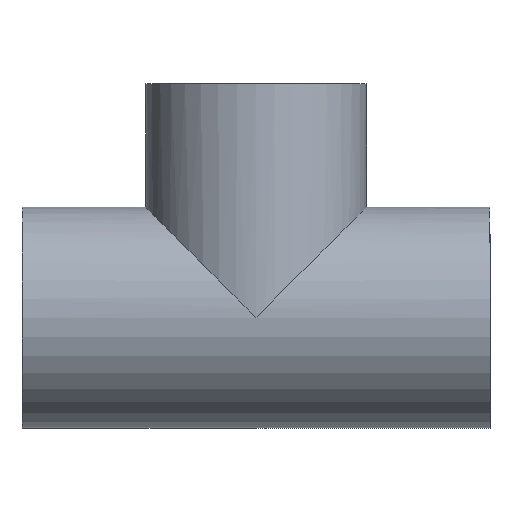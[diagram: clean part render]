
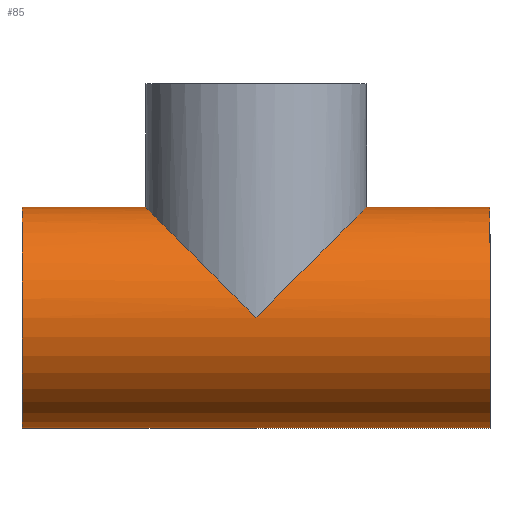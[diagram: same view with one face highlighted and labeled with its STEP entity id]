
A CAD part, front view. The second image highlights one B-rep face of the part: STEP entity #85.
In plain terms, the highlighted cylindrical face has radius 42.5 mm (diameter 85 mm), a full revolution.
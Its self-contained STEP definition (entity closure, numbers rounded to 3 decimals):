
#21 = EDGE_CURVE('',#22,#22,#24,.T.);
#22 = VERTEX_POINT('',#23);
#23 = CARTESIAN_POINT('',(-90.,0.,-42.5));
#24 = SURFACE_CURVE('',#25,(#30,#42),.PCURVE_S1.);
#25 = CIRCLE('',#26,42.5);
#26 = AXIS2_PLACEMENT_3D('',#27,#28,#29);
#27 = CARTESIAN_POINT('',(-90.,0.,0.));
#28 = DIRECTION('',(1.,-0.,0.));
#29 = DIRECTION('',(0.,0.,-1.));
#30 = PCURVE('',#31,#36);
#31 = PLANE('',#32);
#32 = AXIS2_PLACEMENT_3D('',#33,#34,#35);
#33 = CARTESIAN_POINT('',(-90.,0.,0.));
#34 = DIRECTION('',(1.,0.,0.));
#35 = DIRECTION('',(0.,0.,-1.));
#36 = DEFINITIONAL_REPRESENTATION('',(#37),#41);
#37 = CIRCLE('',#38,42.5);
#38 = AXIS2_PLACEMENT_2D('',#39,#40);
#39 = CARTESIAN_POINT('',(0.,0.));
#40 = DIRECTION('',(1.,0.));
#41 = ( GEOMETRIC_REPRESENTATION_CONTEXT(2) 
PARAMETRIC_REPRESENTATION_CONTEXT() REPRESENTATION_CONTEXT('2D SPACE',''
  ) );
#42 = PCURVE('',#43,#48);
#43 = CYLINDRICAL_SURFACE('',#44,42.5);
#44 = AXIS2_PLACEMENT_3D('',#45,#46,#47);
#45 = CARTESIAN_POINT('',(-90.,0.,0.));
#46 = DIRECTION('',(1.,0.,0.));
#47 = DIRECTION('',(0.,0.,-1.));
#48 = DEFINITIONAL_REPRESENTATION('',(#49),#53);
#49 = LINE('',#50,#51);
#50 = CARTESIAN_POINT('',(0.,0.));
#51 = VECTOR('',#52,1.);
#52 = DIRECTION('',(1.,0.));
#53 = ( GEOMETRIC_REPRESENTATION_CONTEXT(2) 
PARAMETRIC_REPRESENTATION_CONTEXT() REPRESENTATION_CONTEXT('2D SPACE',''
  ) );
#85 = ADVANCED_FACE('',(#86,#140),#43,.T.);
#86 = FACE_BOUND('',#87,.T.);
#87 = EDGE_LOOP('',(#88,#111,#138,#139));
#88 = ORIENTED_EDGE('',*,*,#89,.T.);
#89 = EDGE_CURVE('',#22,#90,#92,.T.);
#90 = VERTEX_POINT('',#91);
#91 = CARTESIAN_POINT('',(90.,0.,-42.5));
#92 = SEAM_CURVE('',#93,(#97,#104),.PCURVE_S1.);
#93 = LINE('',#94,#95);
#94 = CARTESIAN_POINT('',(-90.,0.,-42.5));
#95 = VECTOR('',#96,1.);
#96 = DIRECTION('',(1.,0.,0.));
#97 = PCURVE('',#43,#98);
#98 = DEFINITIONAL_REPRESENTATION('',(#99),#103);
#99 = LINE('',#100,#101);
#100 = CARTESIAN_POINT('',(6.283,-0.));
#101 = VECTOR('',#102,1.);
#102 = DIRECTION('',(0.,1.));
#103 = ( GEOMETRIC_REPRESENTATION_CONTEXT(2) 
PARAMETRIC_REPRESENTATION_CONTEXT() REPRESENTATION_CONTEXT('2D SPACE',''
  ) );
#104 = PCURVE('',#43,#105);
#105 = DEFINITIONAL_REPRESENTATION('',(#106),#110);
#106 = LINE('',#107,#108);
#107 = CARTESIAN_POINT('',(0.,-0.));
#108 = VECTOR('',#109,1.);
#109 = DIRECTION('',(0.,1.));
#110 = ( GEOMETRIC_REPRESENTATION_CONTEXT(2) 
PARAMETRIC_REPRESENTATION_CONTEXT() REPRESENTATION_CONTEXT('2D SPACE',''
  ) );
#111 = ORIENTED_EDGE('',*,*,#112,.F.);
#112 = EDGE_CURVE('',#90,#90,#113,.T.);
#113 = SURFACE_CURVE('',#114,(#119,#126),.PCURVE_S1.);
#114 = CIRCLE('',#115,42.5);
#115 = AXIS2_PLACEMENT_3D('',#116,#117,#118);
#116 = CARTESIAN_POINT('',(90.,0.,0.));
#117 = DIRECTION('',(1.,-0.,0.));
#118 = DIRECTION('',(0.,0.,-1.));
#119 = PCURVE('',#43,#120);
#120 = DEFINITIONAL_REPRESENTATION('',(#121),#125);
#121 = LINE('',#122,#123);
#122 = CARTESIAN_POINT('',(0.,180.));
#123 = VECTOR('',#124,1.);
#124 = DIRECTION('',(1.,0.));
#125 = ( GEOMETRIC_REPRESENTATION_CONTEXT(2) 
PARAMETRIC_REPRESENTATION_CONTEXT() REPRESENTATION_CONTEXT('2D SPACE',''
  ) );
#126 = PCURVE('',#127,#132);
#127 = PLANE('',#128);
#128 = AXIS2_PLACEMENT_3D('',#129,#130,#131);
#129 = CARTESIAN_POINT('',(90.,0.,0.));
#130 = DIRECTION('',(1.,0.,0.));
#131 = DIRECTION('',(0.,0.,-1.));
#132 = DEFINITIONAL_REPRESENTATION('',(#133),#137);
#133 = CIRCLE('',#134,42.5);
#134 = AXIS2_PLACEMENT_2D('',#135,#136);
#135 = CARTESIAN_POINT('',(0.,0.));
#136 = DIRECTION('',(1.,0.));
#137 = ( GEOMETRIC_REPRESENTATION_CONTEXT(2) 
PARAMETRIC_REPRESENTATION_CONTEXT() REPRESENTATION_CONTEXT('2D SPACE',''
  ) );
#138 = ORIENTED_EDGE('',*,*,#89,.F.);
#139 = ORIENTED_EDGE('',*,*,#21,.T.);
#140 = FACE_BOUND('',#141,.T.);
#141 = EDGE_LOOP('',(#142,#189,#227));
#142 = ORIENTED_EDGE('',*,*,#143,.F.);
#143 = EDGE_CURVE('',#144,#146,#148,.T.);
#144 = VERTEX_POINT('',#145);
#145 = CARTESIAN_POINT('',(0.,42.5,0.));
#146 = VERTEX_POINT('',#147);
#147 = CARTESIAN_POINT('',(0.,-42.5,0.));
#148 = SURFACE_CURVE('',#149,(#154,#169),.PCURVE_S1.);
#149 = ELLIPSE('',#150,60.104,42.5);
#150 = AXIS2_PLACEMENT_3D('',#151,#152,#153);
#151 = CARTESIAN_POINT('',(0.,0.,0.));
#152 = DIRECTION('',(0.707,-0.,0.707));
#153 = DIRECTION('',(0.707,0.,-0.707));
#154 = PCURVE('',#43,#155);
#155 = DEFINITIONAL_REPRESENTATION('',(#156),#168);
#156 = B_SPLINE_CURVE_WITH_KNOTS('',10,(#157,#158,#159,#160,#161,#162,
    #163,#164,#165,#166,#167),.UNSPECIFIED.,.F.,.F.,(11,11),(
    1.571,4.712),.PIECEWISE_BEZIER_KNOTS.);
#157 = CARTESIAN_POINT('',(1.571,90.));
#158 = CARTESIAN_POINT('',(1.885,76.648));
#159 = CARTESIAN_POINT('',(2.199,63.296));
#160 = CARTESIAN_POINT('',(2.513,51.775));
#161 = CARTESIAN_POINT('',(2.827,43.914));
#162 = CARTESIAN_POINT('',(3.142,41.113));
#163 = CARTESIAN_POINT('',(3.456,43.914));
#164 = CARTESIAN_POINT('',(3.77,51.775));
#165 = CARTESIAN_POINT('',(4.084,63.296));
#166 = CARTESIAN_POINT('',(4.398,76.648));
#167 = CARTESIAN_POINT('',(4.712,90.));
#168 = ( GEOMETRIC_REPRESENTATION_CONTEXT(2) 
PARAMETRIC_REPRESENTATION_CONTEXT() REPRESENTATION_CONTEXT('2D SPACE',''
  ) );
#169 = PCURVE('',#170,#175);
#170 = CYLINDRICAL_SURFACE('',#171,42.5);
#171 = AXIS2_PLACEMENT_3D('',#172,#173,#174);
#172 = CARTESIAN_POINT('',(0.,0.,0.));
#173 = DIRECTION('',(0.,0.,1.));
#174 = DIRECTION('',(1.,0.,0.));
#175 = DEFINITIONAL_REPRESENTATION('',(#176),#188);
#176 = B_SPLINE_CURVE_WITH_KNOTS('',10,(#177,#178,#179,#180,#181,#182,
    #183,#184,#185,#186,#187),.UNSPECIFIED.,.F.,.F.,(11,11),(
    1.571,4.712),.PIECEWISE_BEZIER_KNOTS.);
#177 = CARTESIAN_POINT('',(1.571,0.));
#178 = CARTESIAN_POINT('',(1.885,13.352));
#179 = CARTESIAN_POINT('',(2.199,26.704));
#180 = CARTESIAN_POINT('',(2.513,38.225));
#181 = CARTESIAN_POINT('',(2.827,46.086));
#182 = CARTESIAN_POINT('',(3.142,48.887));
#183 = CARTESIAN_POINT('',(3.456,46.086));
#184 = CARTESIAN_POINT('',(3.77,38.225));
#185 = CARTESIAN_POINT('',(4.084,26.704));
#186 = CARTESIAN_POINT('',(4.398,13.352));
#187 = CARTESIAN_POINT('',(4.712,0.));
#188 = ( GEOMETRIC_REPRESENTATION_CONTEXT(2) 
PARAMETRIC_REPRESENTATION_CONTEXT() REPRESENTATION_CONTEXT('2D SPACE',''
  ) );
#189 = ORIENTED_EDGE('',*,*,#190,.T.);
#190 = EDGE_CURVE('',#144,#191,#193,.T.);
#191 = VERTEX_POINT('',#192);
#192 = CARTESIAN_POINT('',(42.5,0.,42.5));
#193 = SURFACE_CURVE('',#194,(#199,#213),.PCURVE_S1.);
#194 = ELLIPSE('',#195,60.104,42.5);
#195 = AXIS2_PLACEMENT_3D('',#196,#197,#198);
#196 = CARTESIAN_POINT('',(0.,0.,0.));
#197 = DIRECTION('',(0.707,0.,-0.707));
#198 = DIRECTION('',(0.707,0.,0.707));
#199 = PCURVE('',#43,#200);
#200 = DEFINITIONAL_REPRESENTATION('',(#201),#212);
#201 = B_SPLINE_CURVE_WITH_KNOTS('',9,(#202,#203,#204,#205,#206,#207,
    #208,#209,#210,#211),.UNSPECIFIED.,.F.,.F.,(10,10),(4.712,
    6.283),.PIECEWISE_BEZIER_KNOTS.);
#202 = CARTESIAN_POINT('',(1.571,90.));
#203 = CARTESIAN_POINT('',(1.745,97.418));
#204 = CARTESIAN_POINT('',(1.92,104.835));
#205 = CARTESIAN_POINT('',(2.094,111.926));
#206 = CARTESIAN_POINT('',(2.269,118.363));
#207 = CARTESIAN_POINT('',(2.443,123.847));
#208 = CARTESIAN_POINT('',(2.618,128.131));
#209 = CARTESIAN_POINT('',(2.793,131.044));
#210 = CARTESIAN_POINT('',(2.967,132.5));
#211 = CARTESIAN_POINT('',(3.142,132.5));
#212 = ( GEOMETRIC_REPRESENTATION_CONTEXT(2) 
PARAMETRIC_REPRESENTATION_CONTEXT() REPRESENTATION_CONTEXT('2D SPACE',''
  ) );
#213 = PCURVE('',#170,#214);
#214 = DEFINITIONAL_REPRESENTATION('',(#215),#226);
#215 = B_SPLINE_CURVE_WITH_KNOTS('',9,(#216,#217,#218,#219,#220,#221,
    #222,#223,#224,#225),.UNSPECIFIED.,.F.,.F.,(10,10),(4.712,
    6.283),.PIECEWISE_BEZIER_KNOTS.);
#216 = CARTESIAN_POINT('',(1.571,0.));
#217 = CARTESIAN_POINT('',(1.396,7.418));
#218 = CARTESIAN_POINT('',(1.222,14.835));
#219 = CARTESIAN_POINT('',(1.047,21.926));
#220 = CARTESIAN_POINT('',(0.873,28.363));
#221 = CARTESIAN_POINT('',(0.698,33.847));
#222 = CARTESIAN_POINT('',(0.524,38.131));
#223 = CARTESIAN_POINT('',(0.349,41.044));
#224 = CARTESIAN_POINT('',(0.175,42.5));
#225 = CARTESIAN_POINT('',(0.,42.5));
#226 = ( GEOMETRIC_REPRESENTATION_CONTEXT(2) 
PARAMETRIC_REPRESENTATION_CONTEXT() REPRESENTATION_CONTEXT('2D SPACE',''
  ) );
#227 = ORIENTED_EDGE('',*,*,#228,.T.);
#228 = EDGE_CURVE('',#191,#146,#229,.T.);
#229 = SURFACE_CURVE('',#230,(#235,#249),.PCURVE_S1.);
#230 = ELLIPSE('',#231,60.104,42.5);
#231 = AXIS2_PLACEMENT_3D('',#232,#233,#234);
#232 = CARTESIAN_POINT('',(0.,0.,0.));
#233 = DIRECTION('',(0.707,0.,-0.707));
#234 = DIRECTION('',(0.707,0.,0.707));
#235 = PCURVE('',#43,#236);
#236 = DEFINITIONAL_REPRESENTATION('',(#237),#248);
#237 = B_SPLINE_CURVE_WITH_KNOTS('',9,(#238,#239,#240,#241,#242,#243,
    #244,#245,#246,#247),.UNSPECIFIED.,.F.,.F.,(10,10),(0.,
    1.571),.PIECEWISE_BEZIER_KNOTS.);
#238 = CARTESIAN_POINT('',(3.142,132.5));
#239 = CARTESIAN_POINT('',(3.316,132.5));
#240 = CARTESIAN_POINT('',(3.491,131.044));
#241 = CARTESIAN_POINT('',(3.665,128.131));
#242 = CARTESIAN_POINT('',(3.84,123.847));
#243 = CARTESIAN_POINT('',(4.014,118.363));
#244 = CARTESIAN_POINT('',(4.189,111.926));
#245 = CARTESIAN_POINT('',(4.363,104.835));
#246 = CARTESIAN_POINT('',(4.538,97.418));
#247 = CARTESIAN_POINT('',(4.712,90.));
#248 = ( GEOMETRIC_REPRESENTATION_CONTEXT(2) 
PARAMETRIC_REPRESENTATION_CONTEXT() REPRESENTATION_CONTEXT('2D SPACE',''
  ) );
#249 = PCURVE('',#170,#250);
#250 = DEFINITIONAL_REPRESENTATION('',(#251),#262);
#251 = B_SPLINE_CURVE_WITH_KNOTS('',9,(#252,#253,#254,#255,#256,#257,
    #258,#259,#260,#261),.UNSPECIFIED.,.F.,.F.,(10,10),(0.,
    1.571),.PIECEWISE_BEZIER_KNOTS.);
#252 = CARTESIAN_POINT('',(6.283,42.5));
#253 = CARTESIAN_POINT('',(6.109,42.5));
#254 = CARTESIAN_POINT('',(5.934,41.044));
#255 = CARTESIAN_POINT('',(5.76,38.131));
#256 = CARTESIAN_POINT('',(5.585,33.847));
#257 = CARTESIAN_POINT('',(5.411,28.363));
#258 = CARTESIAN_POINT('',(5.236,21.926));
#259 = CARTESIAN_POINT('',(5.061,14.835));
#260 = CARTESIAN_POINT('',(4.887,7.418));
#261 = CARTESIAN_POINT('',(4.712,0.));
#262 = ( GEOMETRIC_REPRESENTATION_CONTEXT(2) 
PARAMETRIC_REPRESENTATION_CONTEXT() REPRESENTATION_CONTEXT('2D SPACE',''
  ) );
